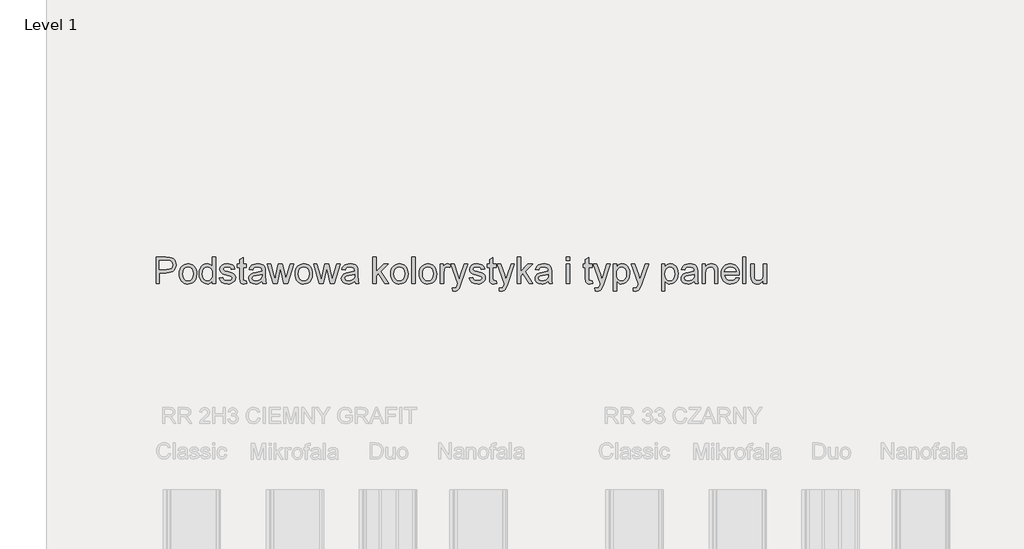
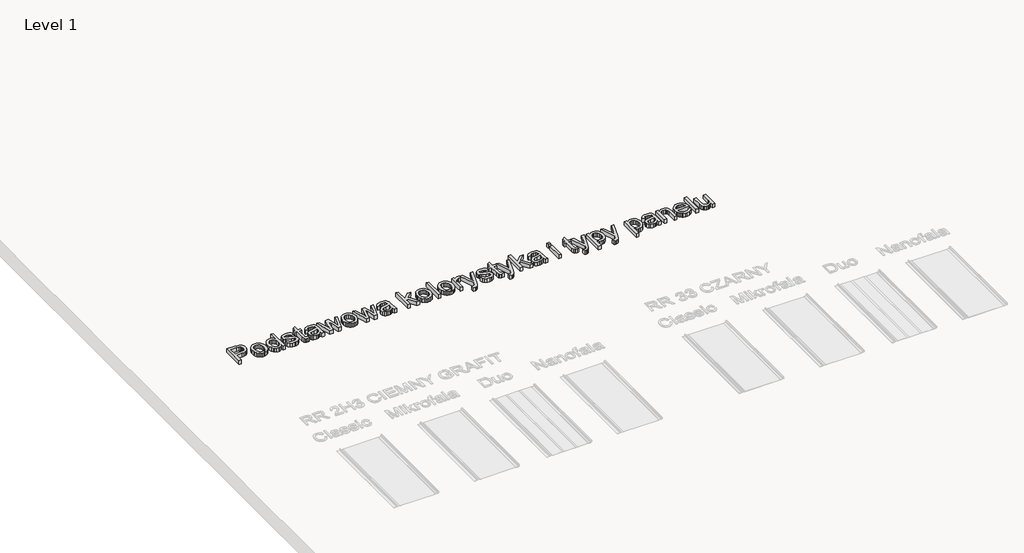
# One storey, part 18 of 22: 1 proxy.
"""IFC4 building model written with IfcOpenShell, lengths in millimetres."""

from ifc_helpers import new_model, si_unit, frame, origin, place, context, project, spatial, polyline, outline, extrude, element, save

model = new_model("IFC4")

# Units and contexts
model_context = context("Model", 3, world=origin())
ifc_project = project(units=[si_unit("LENGTHUNIT", "METRE", prefix="MILLI")], contexts=[model_context])

# Site, building, storey
site = spatial("IfcSite", under=ifc_project)
building = spatial("IfcBuilding", under=site)
storey = spatial("IfcBuildingStorey", under=building, Name="Level 1", Elevation=0.0)

# Proxy
placement = place(None, origin())
element("IfcBuildingElementProxy", 1, Name="250", ObjectType="250", at=placement, inside=storey, context=model_context, shape_type="SweptSolid", body=[
    extrude(outline(polyline([(-8797.1954693, 2793.1104745), (-8797.1954693, 3044.2512499), (-8704.1213245, 3044.2512499), (-8666.597361, 3041.8600169), (-8649.8663944, 3037.3917835), (-8636.0938123, 3030.1184499), (-8625.0037029, 3019.7104551), (-8616.320155, 3005.8382382), (-8610.7099546, 2989.4751536), (-8608.8398878, 2971.5945558), (-8613.890601, 2941.9953836), (-8629.0427407, 2917.3319616), (-8641.1770984, 2907.6214097), (-8657.3773185, 2900.6853013), (-8677.6434011, 2896.5236362), (-8701.9753462, 2895.1364145), (-8765.8028724, 2895.1364145), (-8765.8028724, 2793.1104745), (-8797.1954693, 2793.1104745)]), holes=[polyline([(-8765.8028724, 2926.5290114), (-8700.1359362, 2926.5290114), (-8672.2995319, 2929.4107537), (-8653.9054322, 2938.0559806), (-8643.6507216, 2951.9281975), (-8640.2324847, 2970.4909099), (-8642.2481715, 2984.593053), (-8648.2952318, 2996.4879042), (-8657.6225732, 3005.4396994), (-8669.4791033, 3010.7126747), (-8700.8717002, 3012.858653), (-8765.8028724, 3012.858653), (-8765.8028724, 2926.5290114)])]), frame((0.0, 0.0, 600.0), z_axis=(0.0, 0.0, 1.0), x_axis=(1.0, 0.0, 0.0)), (0.0, 0.0, 1.0), 50.0),
    extrude(outline(polyline([(-8577.4472909, 2885.326228), (-8575.7496687, 2909.2117329), (-8570.6568024, 2929.7939641), (-8562.1686917, 2947.0729216), (-8550.2853369, 2961.0486053), (-8525.116077, 2976.3616934), (-8494.9804103, 2981.466056), (-8477.6612157, 2979.9121378), (-8462.0013222, 2975.2503832), (-8448.0007299, 2967.4807921), (-8435.6594385, 2956.6033645), (-8425.5867529, 2942.9859826), (-8418.3919774, 2926.9965281), (-8414.0751121, 2908.6350013), (-8412.636157, 2887.9014019), (-8415.1806741, 2856.1869083), (-8422.8142255, 2832.0446523), (-8435.3145492, 2813.9647851), (-8452.459383, 2800.4374576), (-8472.8231843, 2791.9991643), (-8494.9804103, 2789.1863999), (-8512.5525237, 2790.73457), (-8528.3580371, 2795.3790802), (-8542.3969506, 2803.1199305), (-8554.669264, 2813.9571209), (-8564.6346507, 2827.7067105), (-8571.7527841, 2844.1847582), (-8576.0236642, 2863.391264), (-8577.4472909, 2885.326228)]), holes=[polyline([(-8546.0546939, 2885.3875416), (-8542.4218592, 2856.9763217), (-8531.5233551, 2836.7351478), (-8515.1219495, 2824.6180346), (-8494.9804103, 2820.5789968), (-8474.9308415, 2824.6410272), (-8458.5600927, 2836.8271183), (-8447.6615886, 2857.3365395), (-8444.0287539, 2886.3685603), (-8447.6845813, 2913.9520457), (-8458.6520632, 2933.9173082), (-8475.0458047, 2946.0344214), (-8494.9804103, 2950.0734591), (-8515.1219495, 2946.0497498), (-8531.5233551, 2933.9786218), (-8542.4218592, 2913.7834331), (-8546.0546939, 2885.3875416)])]), frame((0.0, 0.0, 600.0), z_axis=(0.0, 0.0, 1.0), x_axis=(1.0, 0.0, 0.0)), (0.0, 0.0, 1.0), 50.0),
    extrude(outline(polyline([(-8263.5213216, 2793.1104745), (-8263.5213216, 2822.7249751), (-8272.9138088, 2808.0518485), (-8284.2913259, 2797.5710437), (-8297.653873, 2791.2825609), (-8313.00145, 2789.1863999), (-8333.2962734, 2792.2214264), (-8351.8743141, 2801.3265057), (-8367.6012694, 2815.8655088), (-8379.3428365, 2835.2023061), (-8386.6544911, 2858.5551486), (-8389.0917093, 2885.142287), (-8386.8460963, 2911.3998644), (-8380.1092573, 2935.1129247), (-8368.8888564, 2954.9325671), (-8353.192558, 2969.5098912), (-8334.2083142, 2978.4770148), (-8313.1240773, 2981.466056), (-8297.765004, 2979.3277419), (-8284.184027, 2972.9127997), (-8272.6723863, 2963.0796205), (-8263.5213216, 2950.6865958), (-8263.5213216, 3044.2512499), (-8232.1287247, 3044.2512499), (-8232.1287247, 2793.1104745), (-8263.5213216, 2793.1104745)]), holes=[polyline([(-8357.6991124, 2885.2649143), (-8354.1582482, 2856.8690228), (-8343.5356556, 2836.6738341), (-8328.0999402, 2824.6027061), (-8310.1197077, 2820.5789968), (-8292.1471394, 2824.4187651), (-8277.1022986, 2835.9380701), (-8266.9165659, 2855.3515096), (-8263.5213216, 2882.8736813), (-8266.9778795, 2912.9633629), (-8277.3475533, 2933.8253377), (-8292.7756045, 2946.0114288), (-8311.4072947, 2950.0734591), (-8329.5714682, 2946.1723771), (-8344.4553606, 2934.4691312), (-8354.3881744, 2914.365913), (-8357.6991124, 2885.2649143)])]), frame((0.0, 0.0, 600.0), z_axis=(0.0, 0.0, 1.0), x_axis=(1.0, 0.0, 0.0)), (0.0, 0.0, 1.0), 50.0),
    extrude(outline(polyline([(-8196.8120532, 2848.0475191), (-8165.4194563, 2851.9715937), (-8160.4683777, 2838.5439009), (-8150.8881174, 2828.6724007), (-8136.6173617, 2822.6023478), (-8117.5947969, 2820.5789968), (-8098.8021583, 2822.4337352), (-8085.5890633, 2827.9979504), (-8077.7715709, 2836.0606975), (-8075.1657401, 2845.4110315), (-8077.7868993, 2853.4124649), (-8085.650377, 2859.5131746), (-8117.9626789, 2868.4649699), (-8165.2355153, 2883.8240432), (-8177.1993443, 2891.5419009), (-8185.8675638, 2901.7582904), (-8191.1328749, 2913.8217542), (-8192.8879786, 2927.0808344), (-8187.2471213, 2950.471998), (-8171.8573912, 2968.3449316), (-8151.8997929, 2977.6339519), (-8124.8911231, 2981.466056), (-8104.458344, 2979.9255502), (-8086.6927093, 2975.3040326), (-8072.4066251, 2968.0536916), (-8062.4124976, 2958.6267155), (-8055.7906217, 2946.3256613), (-8051.6212924, 2930.453086), (-8083.0138893, 2926.5290114), (-8086.976285, 2936.4081758), (-8094.81677, 2943.850122), (-8106.6119865, 2948.5176249), (-8122.4385765, 2950.0734591), (-8140.4647942, 2948.5866027), (-8152.4822728, 2944.1260335), (-8159.2421044, 2937.6880986), (-8161.4953816, 2930.2691451), (-8157.755248, 2921.1334088), (-8146.0443378, 2914.2049646), (-8119.0050112, 2907.521775), (-8072.9277913, 2892.7451815), (-8060.7570286, 2885.6787816), (-8051.5293219, 2876.0065508), (-8045.7121879, 2863.6978323), (-8043.7731432, 2848.7219695), (-8046.049413, 2833.2402688), (-8052.8782226, 2818.6782732), (-8063.9989887, 2806.1779496), (-8079.1511284, 2796.881265), (-8097.4532576, 2791.1101162), (-8118.0239925, 2789.1863999), (-8149.6771725, 2792.8958767), (-8172.7770962, 2804.024307), (-8188.1974831, 2822.4490636), (-8196.8120532, 2848.0475191)])), frame((0.0, 0.0, 600.0), z_axis=(0.0, 0.0, 1.0), x_axis=(1.0, 0.0, 0.0)), (0.0, 0.0, 1.0), 50.0),
    extrude(outline(polyline([(-7941.7472032, 2819.2914098), (-7937.8231286, 2792.1907695), (-7961.3062626, 2789.1863999), (-7976.374096, 2790.4893153), (-7987.6098253, 2794.3980615), (-8000.7309497, 2808.071009), (-8004.532397, 2843.6942489), (-8004.532397, 2946.1493845), (-8028.0768447, 2946.1493845), (-8028.0768447, 2977.5419814), (-8004.532397, 2977.5419814), (-8004.532397, 3022.3622712), (-7973.1398001, 3040.8176846), (-7973.1398001, 2977.5419814), (-7941.7472032, 2977.5419814), (-7941.7472032, 2946.1493845), (-7973.1398001, 2946.1493845), (-7973.1398001, 2844.6139538), (-7971.4843311, 2828.4271461), (-7966.1193854, 2822.6943183), (-7955.4201507, 2820.5789968), (-7941.7472032, 2819.2914098)])), frame((0.0, 0.0, 600.0), z_axis=(0.0, 0.0, 1.0), x_axis=(1.0, 0.0, 0.0)), (0.0, 0.0, 1.0), 50.0),
    extrude(outline(polyline([(-7792.6323678, 2816.6549222), (-7807.6312233, 2803.7943808), (-7823.0746029, 2795.3790802), (-7839.3150602, 2790.73457), (-7856.7051486, 2789.1863999), (-7882.9397334, 2792.9112051), (-7902.2918592, 2804.0856207), (-7914.2250314, 2821.0541777), (-7918.2027555, 2842.1614072), (-7916.7005707, 2855.1752328), (-7912.1940162, 2866.9934419), (-7896.4057473, 2885.0196596), (-7874.4247981, 2895.3203555), (-7847.2628441, 2900.0415078), (-7792.8163088, 2910.832713), (-7792.6323678, 2917.8224709), (-7794.7936745, 2931.8326435), (-7801.2775947, 2940.9990366), (-7815.7782767, 2947.8048535), (-7835.9811296, 2950.0734591), (-7854.6817977, 2948.5636101), (-7867.7416085, 2944.034063), (-7876.6474185, 2935.6570834), (-7882.886084, 2922.6049368), (-7914.2786809, 2926.5290114), (-7908.8294288, 2943.6968379), (-7900.6977039, 2957.1858444), (-7889.1247495, 2967.5018686), (-7873.3518089, 2975.1507485), (-7854.0609968, 2979.8872292), (-7831.9344276, 2981.466056), (-7810.712235, 2980.0711701), (-7793.889298, 2975.8865125), (-7781.2050333, 2969.5941975), (-7772.3988581, 2961.8763398), (-7762.7726125, 2940.5698409), (-7761.2397709, 2913.1013186), (-7761.2397709, 2874.0445135), (-7759.6456156, 2819.5060077), (-7753.3916217, 2793.1104745), (-7784.7842186, 2793.1104745), (-7792.6323678, 2816.6549222)]), holes=[polyline([(-7792.6323678, 2879.4401161), (-7843.2774558, 2869.8138705), (-7870.2861256, 2864.7248362), (-7882.518202, 2856.4474914), (-7886.8101586, 2844.3686992), (-7884.4725751, 2835.0336935), (-7877.4598245, 2827.3848137), (-7865.9251911, 2822.280451), (-7850.0219591, 2820.5789968), (-7833.1607009, 2822.4567278), (-7818.2614801, 2828.0899209), (-7806.182688, 2836.3902584), (-7797.7827157, 2846.2694228), (-7794.0579105, 2856.4474914), (-7792.8163088, 2870.5496345), (-7792.6323678, 2879.4401161)])]), frame((0.0, 0.0, 600.0), z_axis=(0.0, 0.0, 1.0), x_axis=(1.0, 0.0, 0.0)), (0.0, 0.0, 1.0), 50.0),
    extrude(outline(polyline([(-7687.2341762, 2793.1104745), (-7743.5814351, 2977.5419814), (-7711.0238785, 2977.5419814), (-7679.1407723, 2869.9364978), (-7669.6371541, 2831.4928293), (-7661.8503185, 2868.5262835), (-7636.5277745, 2977.5419814), (-7599.2490657, 2977.5419814), (-7573.9265217, 2868.8328519), (-7566.9980774, 2835.2942766), (-7557.0652636, 2870.6722618), (-7525.1821573, 2977.5419814), (-7492.4406597, 2977.5419814), (-7548.9718597, 2793.1104745), (-7586.8637052, 2793.1104745), (-7611.0212895, 2901.2677811), (-7618.0110474, 2934.9902973), (-7649.097076, 2793.1104745), (-7687.2341762, 2793.1104745)])), frame((0.0, 0.0, 600.0), z_axis=(0.0, 0.0, 1.0), x_axis=(1.0, 0.0, 0.0)), (0.0, 0.0, 1.0), 50.0),
    extrude(outline(polyline([(-7478.7063986, 2885.326228), (-7477.0087765, 2909.2117329), (-7471.9159101, 2929.7939641), (-7463.4277995, 2947.0729216), (-7451.5444446, 2961.0486053), (-7426.3751848, 2976.3616934), (-7396.239518, 2981.466056), (-7378.9203235, 2979.9121378), (-7363.26043, 2975.2503832), (-7349.2598376, 2967.4807921), (-7336.9185463, 2956.6033645), (-7326.8458606, 2942.9859826), (-7319.6510851, 2926.9965281), (-7315.3342198, 2908.6350013), (-7313.8952648, 2887.9014019), (-7316.4397819, 2856.1869083), (-7324.0733333, 2832.0446523), (-7336.5736569, 2813.9647851), (-7353.7184907, 2800.4374576), (-7374.082292, 2791.9991643), (-7396.239518, 2789.1863999), (-7413.8116314, 2790.73457), (-7429.6171449, 2795.3790802), (-7443.6560583, 2803.1199305), (-7455.9283717, 2813.9571209), (-7465.8937585, 2827.7067105), (-7473.0118919, 2844.1847582), (-7477.2827719, 2863.391264), (-7478.7063986, 2885.326228)]), holes=[polyline([(-7447.3138017, 2885.3875416), (-7443.680967, 2856.9763217), (-7432.7824629, 2836.7351478), (-7416.3810572, 2824.6180346), (-7396.239518, 2820.5789968), (-7376.1899493, 2824.6410272), (-7359.8192005, 2836.8271183), (-7348.9206964, 2857.3365395), (-7345.2878617, 2886.3685603), (-7348.943689, 2913.9520457), (-7359.911171, 2933.9173082), (-7376.3049124, 2946.0344214), (-7396.239518, 2950.0734591), (-7416.3810572, 2946.0497498), (-7432.7824629, 2933.9786218), (-7443.680967, 2913.7834331), (-7447.3138017, 2885.3875416)])]), frame((0.0, 0.0, 600.0), z_axis=(0.0, 0.0, 1.0), x_axis=(1.0, 0.0, 0.0)), (0.0, 0.0, 1.0), 50.0),
    extrude(outline(polyline([(-7247.7378193, 2793.1104745), (-7304.0850782, 2977.5419814), (-7271.5275216, 2977.5419814), (-7239.6444154, 2869.9364978), (-7230.1407972, 2831.4928293), (-7222.3539616, 2868.5262835), (-7197.0314176, 2977.5419814), (-7159.7527088, 2977.5419814), (-7134.4301648, 2868.8328519), (-7127.5017205, 2835.2942766), (-7117.5689067, 2870.6722618), (-7085.6858004, 2977.5419814), (-7052.9443028, 2977.5419814), (-7109.4755028, 2793.1104745), (-7147.3673483, 2793.1104745), (-7171.5249326, 2901.2677811), (-7178.5146905, 2934.9902973), (-7209.6007191, 2793.1104745), (-7247.7378193, 2793.1104745)])), frame((0.0, 0.0, 600.0), z_axis=(0.0, 0.0, 1.0), x_axis=(1.0, 0.0, 0.0)), (0.0, 0.0, 1.0), 50.0),
    extrude(outline(polyline([(-6913.639654, 2816.6549222), (-6928.6385095, 2803.7943808), (-6944.0818891, 2795.3790802), (-6960.3223463, 2790.73457), (-6977.7124348, 2789.1863999), (-7003.9470196, 2792.9112051), (-7023.2991454, 2804.0856207), (-7035.2323176, 2821.0541777), (-7039.2100417, 2842.1614072), (-7037.7078569, 2855.1752328), (-7033.2013024, 2866.9934419), (-7017.4130335, 2885.0196596), (-6995.4320843, 2895.3203555), (-6968.2701303, 2900.0415078), (-6913.823595, 2910.832713), (-6913.639654, 2917.8224709), (-6915.8009607, 2931.8326435), (-6922.2848809, 2940.9990366), (-6936.7855629, 2947.8048535), (-6956.9884158, 2950.0734591), (-6975.6890839, 2948.5636101), (-6988.7488947, 2944.034063), (-6997.6547046, 2935.6570834), (-7003.8933702, 2922.6049368), (-7035.2859671, 2926.5290114), (-7029.836715, 2943.6968379), (-7021.7049901, 2957.1858444), (-7010.1320357, 2967.5018686), (-6994.3590951, 2975.1507485), (-6975.068283, 2979.8872292), (-6952.9417138, 2981.466056), (-6931.7195212, 2980.0711701), (-6914.8965842, 2975.8865125), (-6902.2123195, 2969.5941975), (-6893.4061443, 2961.8763398), (-6883.7798987, 2940.5698409), (-6882.2470571, 2913.1013186), (-6882.2470571, 2874.0445135), (-6880.6529018, 2819.5060077), (-6874.3989078, 2793.1104745), (-6905.7915048, 2793.1104745), (-6913.639654, 2816.6549222)]), holes=[polyline([(-6913.639654, 2879.4401161), (-6964.284742, 2869.8138705), (-6991.2934118, 2864.7248362), (-7003.5254882, 2856.4474914), (-7007.8174448, 2844.3686992), (-7005.4798613, 2835.0336935), (-6998.4671107, 2827.3848137), (-6986.9324773, 2822.280451), (-6971.0292452, 2820.5789968), (-6954.1679871, 2822.4567278), (-6939.2687663, 2828.0899209), (-6927.1899742, 2836.3902584), (-6918.7900019, 2846.2694228), (-6915.0651967, 2856.4474914), (-6913.823595, 2870.5496345), (-6913.639654, 2879.4401161)])]), frame((0.0, 0.0, 600.0), z_axis=(0.0, 0.0, 1.0), x_axis=(1.0, 0.0, 0.0)), (0.0, 0.0, 1.0), 50.0),
    extrude(outline(polyline([(-6740.9803709, 2793.1104745), (-6740.9803709, 3044.2512499), (-6709.587774, 3044.2512499), (-6709.587774, 2909.2998713), (-6639.1996856, 2977.5419814), (-6595.7896102, 2977.5419814), (-6667.0974036, 2908.44148), (-6591.8655356, 2793.1104745), (-6628.5311077, 2793.1104745), (-6689.5995189, 2886.613815), (-6709.587774, 2867.1773829), (-6709.587774, 2793.1104745), (-6740.9803709, 2793.1104745)])), frame((0.0, 0.0, 600.0), z_axis=(0.0, 0.0, 1.0), x_axis=(1.0, 0.0, 0.0)), (0.0, 0.0, 1.0), 50.0),
    extrude(outline(polyline([(-6572.2451625, 2885.326228), (-6570.5475404, 2909.2117329), (-6565.454674, 2929.7939641), (-6556.9665634, 2947.0729216), (-6545.0832085, 2961.0486053), (-6519.9139487, 2976.3616934), (-6489.7782819, 2981.466056), (-6472.4590873, 2979.9121378), (-6456.7991939, 2975.2503832), (-6442.7986015, 2967.4807921), (-6430.4573102, 2956.6033645), (-6420.3846245, 2942.9859826), (-6413.189849, 2926.9965281), (-6408.8729837, 2908.6350013), (-6407.4340286, 2887.9014019), (-6409.9785458, 2856.1869083), (-6417.6120972, 2832.0446523), (-6430.1124208, 2813.9647851), (-6447.2572546, 2800.4374576), (-6467.6210559, 2791.9991643), (-6489.7782819, 2789.1863999), (-6507.3503953, 2790.73457), (-6523.1559087, 2795.3790802), (-6537.1948222, 2803.1199305), (-6549.4671356, 2813.9571209), (-6559.4325224, 2827.7067105), (-6566.5506558, 2844.1847582), (-6570.8215358, 2863.391264), (-6572.2451625, 2885.326228)]), holes=[polyline([(-6540.8525656, 2885.3875416), (-6537.2197309, 2856.9763217), (-6526.3212267, 2836.7351478), (-6509.9198211, 2824.6180346), (-6489.7782819, 2820.5789968), (-6469.7287132, 2824.6410272), (-6453.3579644, 2836.8271183), (-6442.4594603, 2857.3365395), (-6438.8266256, 2886.3685603), (-6442.4824529, 2913.9520457), (-6453.4499349, 2933.9173082), (-6469.8436763, 2946.0344214), (-6489.7782819, 2950.0734591), (-6509.9198211, 2946.0497498), (-6526.3212267, 2933.9786218), (-6537.2197309, 2913.7834331), (-6540.8525656, 2885.3875416)])]), frame((0.0, 0.0, 600.0), z_axis=(0.0, 0.0, 1.0), x_axis=(1.0, 0.0, 0.0)), (0.0, 0.0, 1.0), 50.0),
    extrude(outline(polyline([(-6372.1173571, 2793.1104745), (-6372.1173571, 3044.2512499), (-6340.7247602, 3044.2512499), (-6340.7247602, 2793.1104745), (-6372.1173571, 2793.1104745)])), frame((0.0, 0.0, 600.0), z_axis=(0.0, 0.0, 1.0), x_axis=(1.0, 0.0, 0.0)), (0.0, 0.0, 1.0), 50.0),
    extrude(outline(polyline([(-6301.484014, 2885.326228), (-6299.7863919, 2909.2117329), (-6294.6935255, 2929.7939641), (-6286.2054149, 2947.0729216), (-6274.32206, 2961.0486053), (-6249.1528002, 2976.3616934), (-6219.0171334, 2981.466056), (-6201.6979389, 2979.9121378), (-6186.0380454, 2975.2503832), (-6172.037453, 2967.4807921), (-6159.6961617, 2956.6033645), (-6149.623476, 2942.9859826), (-6142.4287006, 2926.9965281), (-6138.1118353, 2908.6350013), (-6136.6728802, 2887.9014019), (-6139.2173973, 2856.1869083), (-6146.8509487, 2832.0446523), (-6159.3512723, 2813.9647851), (-6176.4961062, 2800.4374576), (-6196.8599074, 2791.9991643), (-6219.0171334, 2789.1863999), (-6236.5892469, 2790.73457), (-6252.3947603, 2795.3790802), (-6266.4336737, 2803.1199305), (-6278.7059872, 2813.9571209), (-6288.6713739, 2827.7067105), (-6295.7895073, 2844.1847582), (-6300.0603873, 2863.391264), (-6301.484014, 2885.326228)]), holes=[polyline([(-6270.0914171, 2885.3875416), (-6266.4585824, 2856.9763217), (-6255.5600783, 2836.7351478), (-6239.1586727, 2824.6180346), (-6219.0171334, 2820.5789968), (-6198.9675647, 2824.6410272), (-6182.5968159, 2836.8271183), (-6171.6983118, 2857.3365395), (-6168.0654771, 2886.3685603), (-6171.7213044, 2913.9520457), (-6182.6887864, 2933.9173082), (-6199.0825278, 2946.0344214), (-6219.0171334, 2950.0734591), (-6239.1586727, 2946.0497498), (-6255.5600783, 2933.9786218), (-6266.4585824, 2913.7834331), (-6270.0914171, 2885.3875416)])]), frame((0.0, 0.0, 600.0), z_axis=(0.0, 0.0, 1.0), x_axis=(1.0, 0.0, 0.0)), (0.0, 0.0, 1.0), 50.0),
    extrude(outline(polyline([(-6101.3562087, 2793.1104745), (-6101.3562087, 2977.5419814), (-6073.8876863, 2977.5419814), (-6073.8876863, 2950.2574001), (-6063.7402746, 2966.0763259), (-6054.3899406, 2975.3960031), (-6034.7695675, 2981.466056), (-6019.1345827, 2979.0441662), (-6003.2543433, 2971.7784968), (-6013.7389801, 2943.6355242), (-6035.8118998, 2950.0734591), (-6045.1852265, 2948.5252891), (-6053.5622061, 2943.8807789), (-6064.8745775, 2926.7129524), (-6069.9636117, 2890.0473802), (-6069.9636117, 2793.1104745), (-6101.3562087, 2793.1104745)])), frame((0.0, 0.0, 600.0), z_axis=(0.0, 0.0, 1.0), x_axis=(1.0, 0.0, 0.0)), (0.0, 0.0, 1.0), 50.0),
    extrude(outline(polyline([(-5983.6339702, 2722.4771314), (-5987.5580448, 2752.7047687), (-5971.6164917, 2749.9456537), (-5956.7172709, 2753.4098759), (-5947.5815347, 2763.0667782), (-5938.9976214, 2786.1820303), (-5936.5450748, 2793.7849248), (-6003.2543433, 2977.5419814), (-5970.2062774, 2977.5419814), (-5934.7669785, 2875.0868458), (-5922.4429317, 2834.129317), (-5910.1188848, 2870.3656935), (-5873.759881, 2977.5419814), (-5840.9570697, 2977.5419814), (-5905.1524779, 2788.6958906), (-5921.829795, 2747.7383618), (-5930.367723, 2734.6632225), (-5940.0399538, 2725.6041284), (-5951.2603546, 2720.3158247), (-5964.4427928, 2718.5530568), (-5983.6339702, 2722.4771314)])), frame((0.0, 0.0, 600.0), z_axis=(0.0, 0.0, 1.0), x_axis=(1.0, 0.0, 0.0)), (0.0, 0.0, 1.0), 50.0),
    extrude(outline(polyline([(-5826.6709856, 2848.0475191), (-5795.2783887, 2851.9715937), (-5790.3273101, 2838.5439009), (-5780.7470499, 2828.6724007), (-5766.4762941, 2822.6023478), (-5747.4537293, 2820.5789968), (-5728.6610907, 2822.4337352), (-5715.4479957, 2827.9979504), (-5707.6305033, 2836.0606975), (-5705.0246725, 2845.4110315), (-5707.6458317, 2853.4124649), (-5715.5093094, 2859.5131746), (-5747.8216113, 2868.4649699), (-5795.0944477, 2883.8240432), (-5807.0582767, 2891.5419009), (-5815.7264962, 2901.7582904), (-5820.9918073, 2913.8217542), (-5822.746911, 2927.0808344), (-5817.1060537, 2950.471998), (-5801.7163236, 2968.3449316), (-5781.7587253, 2977.6339519), (-5754.7500555, 2981.466056), (-5734.3172764, 2979.9255502), (-5716.5516417, 2975.3040326), (-5702.2655575, 2968.0536916), (-5692.27143, 2958.6267155), (-5685.6495541, 2946.3256613), (-5681.4802248, 2930.453086), (-5712.8728217, 2926.5290114), (-5716.8352174, 2936.4081758), (-5724.6757024, 2943.850122), (-5736.4709189, 2948.5176249), (-5752.2975089, 2950.0734591), (-5770.3237267, 2948.5866027), (-5782.3412052, 2944.1260335), (-5789.1010368, 2937.6880986), (-5791.354314, 2930.2691451), (-5787.6141804, 2921.1334088), (-5775.9032703, 2914.2049646), (-5748.8639436, 2907.521775), (-5702.7867237, 2892.7451815), (-5690.615961, 2885.6787816), (-5681.3882543, 2876.0065508), (-5675.5711203, 2863.6978323), (-5673.6320756, 2848.7219695), (-5675.9083454, 2833.2402688), (-5682.737155, 2818.6782732), (-5693.8579211, 2806.1779496), (-5709.0100608, 2796.881265), (-5727.3121901, 2791.1101162), (-5747.882925, 2789.1863999), (-5779.536105, 2792.8958767), (-5802.6360286, 2804.024307), (-5818.0564155, 2822.4490636), (-5826.6709856, 2848.0475191)])), frame((0.0, 0.0, 600.0), z_axis=(0.0, 0.0, 1.0), x_axis=(1.0, 0.0, 0.0)), (0.0, 0.0, 1.0), 50.0),
    extrude(outline(polyline([(-5571.6061356, 2819.2914098), (-5567.682061, 2792.1907695), (-5591.165195, 2789.1863999), (-5606.2330284, 2790.4893153), (-5617.4687577, 2794.3980615), (-5630.5898822, 2808.071009), (-5634.3913294, 2843.6942489), (-5634.3913294, 2946.1493845), (-5657.9357771, 2946.1493845), (-5657.9357771, 2977.5419814), (-5634.3913294, 2977.5419814), (-5634.3913294, 3022.3622712), (-5602.9987325, 3040.8176846), (-5602.9987325, 2977.5419814), (-5571.6061356, 2977.5419814), (-5571.6061356, 2946.1493845), (-5602.9987325, 2946.1493845), (-5602.9987325, 2844.6139538), (-5601.3432635, 2828.4271461), (-5595.9783178, 2822.6943183), (-5585.2790831, 2820.5789968), (-5571.6061356, 2819.2914098)])), frame((0.0, 0.0, 600.0), z_axis=(0.0, 0.0, 1.0), x_axis=(1.0, 0.0, 0.0)), (0.0, 0.0, 1.0), 50.0),
    extrude(outline(polyline([(-5540.2135387, 2722.4771314), (-5544.1376133, 2752.7047687), (-5528.1960602, 2749.9456537), (-5513.2968394, 2753.4098759), (-5504.1611031, 2763.0667782), (-5495.5771899, 2786.1820303), (-5493.1246433, 2793.7849248), (-5559.8339118, 2977.5419814), (-5526.7858459, 2977.5419814), (-5491.346547, 2875.0868458), (-5479.0225001, 2834.129317), (-5466.6984533, 2870.3656935), (-5430.3394494, 2977.5419814), (-5397.5366382, 2977.5419814), (-5461.7320464, 2788.6958906), (-5478.4093635, 2747.7383618), (-5486.9472915, 2734.6632225), (-5496.6195222, 2725.6041284), (-5507.8399231, 2720.3158247), (-5521.0223613, 2718.5530568), (-5540.2135387, 2722.4771314)])), frame((0.0, 0.0, 600.0), z_axis=(0.0, 0.0, 1.0), x_axis=(1.0, 0.0, 0.0)), (0.0, 0.0, 1.0), 50.0),
    extrude(outline(polyline([(-5371.4783302, 2793.1104745), (-5371.4783302, 3044.2512499), (-5340.0857333, 3044.2512499), (-5340.0857333, 2909.2998713), (-5269.6976449, 2977.5419814), (-5226.2875695, 2977.5419814), (-5297.5953629, 2908.44148), (-5222.3634948, 2793.1104745), (-5259.029067, 2793.1104745), (-5320.0974782, 2886.613815), (-5340.0857333, 2867.1773829), (-5340.0857333, 2793.1104745), (-5371.4783302, 2793.1104745)])), frame((0.0, 0.0, 600.0), z_axis=(0.0, 0.0, 1.0), x_axis=(1.0, 0.0, 0.0)), (0.0, 0.0, 1.0), 50.0),
    extrude(outline(polyline([(-5077.1727341, 2816.6549222), (-5092.1715896, 2803.7943808), (-5107.6149692, 2795.3790802), (-5123.8554264, 2790.73457), (-5141.2455149, 2789.1863999), (-5167.4800997, 2792.9112051), (-5186.8322255, 2804.0856207), (-5198.7653977, 2821.0541777), (-5202.7431218, 2842.1614072), (-5201.240937, 2855.1752328), (-5196.7343825, 2866.9934419), (-5180.9461136, 2885.0196596), (-5158.9651643, 2895.3203555), (-5131.8032104, 2900.0415078), (-5077.3566751, 2910.832713), (-5077.1727341, 2917.8224709), (-5079.3340408, 2931.8326435), (-5085.817961, 2940.9990366), (-5100.3186429, 2947.8048535), (-5120.5214958, 2950.0734591), (-5139.2221639, 2948.5636101), (-5152.2819748, 2944.034063), (-5161.1877847, 2935.6570834), (-5167.4264502, 2922.6049368), (-5198.8190472, 2926.5290114), (-5193.3697951, 2943.6968379), (-5185.2380702, 2957.1858444), (-5173.6651157, 2967.5018686), (-5157.8921752, 2975.1507485), (-5138.6013631, 2979.8872292), (-5116.4747939, 2981.466056), (-5095.2526013, 2980.0711701), (-5078.4296642, 2975.8865125), (-5065.7453996, 2969.5941975), (-5056.9392243, 2961.8763398), (-5047.3129788, 2940.5698409), (-5045.7801372, 2913.1013186), (-5045.7801372, 2874.0445135), (-5044.1859818, 2819.5060077), (-5037.9319879, 2793.1104745), (-5069.3245848, 2793.1104745), (-5077.1727341, 2816.6549222)]), holes=[polyline([(-5077.1727341, 2879.4401161), (-5127.8178221, 2869.8138705), (-5154.8264919, 2864.7248362), (-5167.0585682, 2856.4474914), (-5171.3505248, 2844.3686992), (-5169.0129413, 2835.0336935), (-5162.0001908, 2827.3848137), (-5150.4655574, 2822.280451), (-5134.5623253, 2820.5789968), (-5117.7010672, 2822.4567278), (-5102.8018464, 2828.0899209), (-5090.7230542, 2836.3902584), (-5082.323082, 2846.2694228), (-5078.5982768, 2856.4474914), (-5077.3566751, 2870.5496345), (-5077.1727341, 2879.4401161)])]), frame((0.0, 0.0, 600.0), z_axis=(0.0, 0.0, 1.0), x_axis=(1.0, 0.0, 0.0)), (0.0, 0.0, 1.0), 50.0),
    extrude(outline(polyline([(-4904.513451, 3012.858653), (-4904.513451, 3044.2512499), (-4873.1208541, 3044.2512499), (-4873.1208541, 3012.858653), (-4904.513451, 3012.858653)])), frame((0.0, 0.0, 600.0), z_axis=(0.0, 0.0, 1.0), x_axis=(1.0, 0.0, 0.0)), (0.0, 0.0, 1.0), 50.0),
    extrude(outline(polyline([(-4904.513451, 2793.1104745), (-4904.513451, 2977.5419814), (-4873.1208541, 2977.5419814), (-4873.1208541, 2793.1104745), (-4904.513451, 2793.1104745)])), frame((0.0, 0.0, 600.0), z_axis=(0.0, 0.0, 1.0), x_axis=(1.0, 0.0, 0.0)), (0.0, 0.0, 1.0), 50.0),
    extrude(outline(polyline([(-4661.2208249, 2819.2914098), (-4657.2967502, 2792.1907695), (-4680.7798843, 2789.1863999), (-4695.8477177, 2790.4893153), (-4707.0834469, 2794.3980615), (-4720.2045714, 2808.071009), (-4724.0060187, 2843.6942489), (-4724.0060187, 2946.1493845), (-4747.5504664, 2946.1493845), (-4747.5504664, 2977.5419814), (-4724.0060187, 2977.5419814), (-4724.0060187, 3022.3622712), (-4692.6134218, 3040.8176846), (-4692.6134218, 2977.5419814), (-4661.2208249, 2977.5419814), (-4661.2208249, 2946.1493845), (-4692.6134218, 2946.1493845), (-4692.6134218, 2844.6139538), (-4690.9579528, 2828.4271461), (-4685.593007, 2822.6943183), (-4674.8937724, 2820.5789968), (-4661.2208249, 2819.2914098)])), frame((0.0, 0.0, 600.0), z_axis=(0.0, 0.0, 1.0), x_axis=(1.0, 0.0, 0.0)), (0.0, 0.0, 1.0), 50.0),
    extrude(outline(polyline([(-4629.8282279, 2722.4771314), (-4633.7523026, 2752.7047687), (-4617.8107494, 2749.9456537), (-4602.9115286, 2753.4098759), (-4593.7757924, 2763.0667782), (-4585.1918792, 2786.1820303), (-4582.7393326, 2793.7849248), (-4649.448601, 2977.5419814), (-4616.4005351, 2977.5419814), (-4580.9612363, 2875.0868458), (-4568.6371894, 2834.129317), (-4556.3131426, 2870.3656935), (-4519.9541387, 2977.5419814), (-4487.1513275, 2977.5419814), (-4551.3467356, 2788.6958906), (-4568.0240528, 2747.7383618), (-4576.5619807, 2734.6632225), (-4586.2342115, 2725.6041284), (-4597.4546124, 2720.3158247), (-4610.6370505, 2718.5530568), (-4629.8282279, 2722.4771314)])), frame((0.0, 0.0, 600.0), z_axis=(0.0, 0.0, 1.0), x_axis=(1.0, 0.0, 0.0)), (0.0, 0.0, 1.0), 50.0),
    extrude(outline(polyline([(-4461.0930195, 2722.4771314), (-4461.0930195, 2977.5419814), (-4429.7004226, 2977.5419814), (-4429.7004226, 2946.7625212), (-4419.4610404, 2961.9453177), (-4407.9953849, 2972.7901723), (-4394.6290057, 2979.2970851), (-4378.6874526, 2981.466056), (-4357.4575958, 2978.4310296), (-4338.8948834, 2969.3259502), (-4323.7810648, 2954.7026409), (-4312.8978891, 2935.1129247), (-4306.3219984, 2911.9823442), (-4304.1300349, 2886.7364423), (-4306.6055741, 2859.8887208), (-4314.0321919, 2835.8767565), (-4326.1722978, 2815.9191582), (-4342.7883012, 2801.2345352), (-4362.140427, 2792.1984337), (-4382.4888999, 2789.1863999), (-4396.920604, 2791.2020867), (-4409.804138, 2797.249147), (-4429.7004226, 2817.6359409), (-4429.7004226, 2722.4771314), (-4461.0930195, 2722.4771314)]), holes=[polyline([(-4429.7004226, 2883.8547), (-4426.3051783, 2855.7117274), (-4416.1194456, 2836.0300406), (-4401.0899332, 2824.4417578), (-4383.1633502, 2820.5789968), (-4364.9455272, 2824.5797135), (-4349.5328045, 2836.5818636), (-4339.025175, 2856.9839859), (-4335.5226318, 2886.1846193), (-4338.9408687, 2914.1743078), (-4349.1955793, 2934.131906), (-4364.202099, 2946.0880708), (-4381.8757632, 2950.0734591), (-4399.6184053, 2945.835152), (-4415.1997406, 2933.1202305), (-4426.0752521, 2912.3272336), (-4429.7004226, 2883.8547)])]), frame((0.0, 0.0, 600.0), z_axis=(0.0, 0.0, 1.0), x_axis=(1.0, 0.0, 0.0)), (0.0, 0.0, 1.0), 50.0),
    extrude(outline(polyline([(-4268.8133633, 2722.4771314), (-4272.737438, 2752.7047687), (-4256.7958848, 2749.9456537), (-4241.896664, 2753.4098759), (-4232.7609278, 2763.0667782), (-4224.1770146, 2786.1820303), (-4221.724468, 2793.7849248), (-4288.4337364, 2977.5419814), (-4255.3856705, 2977.5419814), (-4219.9463717, 2875.0868458), (-4207.6223248, 2834.129317), (-4195.298278, 2870.3656935), (-4158.9392741, 2977.5419814), (-4126.1364629, 2977.5419814), (-4190.331871, 2788.6958906), (-4207.0091882, 2747.7383618), (-4215.5471161, 2734.6632225), (-4225.2193469, 2725.6041284), (-4236.4397478, 2720.3158247), (-4249.6221859, 2718.5530568), (-4268.8133633, 2722.4771314)])), frame((0.0, 0.0, 600.0), z_axis=(0.0, 0.0, 1.0), x_axis=(1.0, 0.0, 0.0)), (0.0, 0.0, 1.0), 50.0),
    extrude(outline(polyline([(-4001.9762895, 2722.4771314), (-4001.9762895, 2977.5419814), (-3970.5836926, 2977.5419814), (-3970.5836926, 2946.7625212), (-3960.3443104, 2961.9453177), (-3948.8786549, 2972.7901723), (-3935.5122757, 2979.2970851), (-3919.5707226, 2981.466056), (-3898.3408658, 2978.4310296), (-3879.7781534, 2969.3259502), (-3864.6643348, 2954.7026409), (-3853.7811591, 2935.1129247), (-3847.2052685, 2911.9823442), (-3845.0133049, 2886.7364423), (-3847.4888442, 2859.8887208), (-3854.9154619, 2835.8767565), (-3867.0555678, 2815.9191582), (-3883.6715712, 2801.2345352), (-3903.023697, 2792.1984337), (-3923.3721699, 2789.1863999), (-3937.803874, 2791.2020867), (-3950.687408, 2797.249147), (-3970.5836926, 2817.6359409), (-3970.5836926, 2722.4771314), (-4001.9762895, 2722.4771314)]), holes=[polyline([(-3970.5836926, 2883.8547), (-3967.1884483, 2855.7117274), (-3957.0027156, 2836.0300406), (-3941.9732033, 2824.4417578), (-3924.0466202, 2820.5789968), (-3905.8287972, 2824.5797135), (-3890.4160745, 2836.5818636), (-3879.908445, 2856.9839859), (-3876.4059018, 2886.1846193), (-3879.8241387, 2914.1743078), (-3890.0788493, 2934.131906), (-3905.085369, 2946.0880708), (-3922.7590332, 2950.0734591), (-3940.5016753, 2945.835152), (-3956.0830106, 2933.1202305), (-3966.9585221, 2912.3272336), (-3970.5836926, 2883.8547)])]), frame((0.0, 0.0, 600.0), z_axis=(0.0, 0.0, 1.0), x_axis=(1.0, 0.0, 0.0)), (0.0, 0.0, 1.0), 50.0),
    extrude(outline(polyline([(-3691.9743949, 2816.6549222), (-3706.9732504, 2803.7943808), (-3722.41663, 2795.3790802), (-3738.6570873, 2790.73457), (-3756.0471757, 2789.1863999), (-3782.2817605, 2792.9112051), (-3801.6338863, 2804.0856207), (-3813.5670585, 2821.0541777), (-3817.5447826, 2842.1614072), (-3816.0425978, 2855.1752328), (-3811.5360433, 2866.9934419), (-3795.7477744, 2885.0196596), (-3773.7668252, 2895.3203555), (-3746.6048712, 2900.0415078), (-3692.1583359, 2910.832713), (-3691.9743949, 2917.8224709), (-3694.1357016, 2931.8326435), (-3700.6196218, 2940.9990366), (-3715.1203038, 2947.8048535), (-3735.3231567, 2950.0734591), (-3754.0238248, 2948.5636101), (-3767.0836356, 2944.034063), (-3775.9894456, 2935.6570834), (-3782.2281111, 2922.6049368), (-3813.620708, 2926.5290114), (-3808.1714559, 2943.6968379), (-3800.039731, 2957.1858444), (-3788.4667766, 2967.5018686), (-3772.693836, 2975.1507485), (-3753.4030239, 2979.8872292), (-3731.2764547, 2981.466056), (-3710.0542621, 2980.0711701), (-3693.2313251, 2975.8865125), (-3680.5470604, 2969.5941975), (-3671.7408852, 2961.8763398), (-3662.1146396, 2940.5698409), (-3660.581798, 2913.1013186), (-3660.581798, 2874.0445135), (-3658.9876427, 2819.5060077), (-3652.7336488, 2793.1104745), (-3684.1262457, 2793.1104745), (-3691.9743949, 2816.6549222)]), holes=[polyline([(-3691.9743949, 2879.4401161), (-3742.6194829, 2869.8138705), (-3769.6281527, 2864.7248362), (-3781.8602291, 2856.4474914), (-3786.1521857, 2844.3686992), (-3783.8146022, 2835.0336935), (-3776.8018516, 2827.3848137), (-3765.2672182, 2822.280451), (-3749.3639862, 2820.5789968), (-3732.502728, 2822.4567278), (-3717.6035072, 2828.0899209), (-3705.5247151, 2836.3902584), (-3697.1247428, 2846.2694228), (-3693.3999376, 2856.4474914), (-3692.1583359, 2870.5496345), (-3691.9743949, 2879.4401161)])]), frame((0.0, 0.0, 600.0), z_axis=(0.0, 0.0, 1.0), x_axis=(1.0, 0.0, 0.0)), (0.0, 0.0, 1.0), 50.0),
    extrude(outline(polyline([(-3617.4169772, 2793.1104745), (-3617.4169772, 2977.5419814), (-3586.0243803, 2977.5419814), (-3586.0243803, 2951.7902418), (-3575.118212, 2964.7734105), (-3562.0200801, 2974.0471025), (-3546.7299847, 2979.6113177), (-3529.2479257, 2981.466056), (-3513.7738893, 2979.9715354), (-3499.6027683, 2975.4879736), (-3487.7845592, 2968.5748578), (-3479.3692585, 2959.7916752), (-3469.9576108, 2936.70708), (-3468.3021418, 2906.3568154), (-3468.3021418, 2793.1104745), (-3499.6947388, 2793.1104745), (-3499.6947388, 2902.1261724), (-3503.312245, 2929.9012631), (-3508.316973, 2938.1709437), (-3516.0961444, 2944.585886), (-3537.6478979, 2950.0734591), (-3556.0343335, 2946.9924474), (-3571.7076393, 2937.7494123), (-3582.4451951, 2919.8918071), (-3586.0243803, 2890.9670852), (-3586.0243803, 2793.1104745), (-3617.4169772, 2793.1104745)])), frame((0.0, 0.0, 600.0), z_axis=(0.0, 0.0, 1.0), x_axis=(1.0, 0.0, 0.0)), (0.0, 0.0, 1.0), 50.0),
    extrude(outline(polyline([(-3296.0107408, 2848.0475191), (-3265.2312805, 2844.1234445), (-3276.3213898, 2820.9315504), (-3294.0180466, 2803.5951114), (-3317.9227121, 2792.7885778), (-3347.6368474, 2789.1863999), (-3367.1154326, 2790.7403181), (-3384.4710322, 2795.4020728), (-3399.7036461, 2803.1716639), (-3412.8132742, 2814.0490914), (-3423.3553927, 2827.7316192), (-3430.8854772, 2843.9165109), (-3435.403528, 2862.6037666), (-3436.9095449, 2883.7933863), (-3435.3881996, 2905.7015256), (-3430.8241636, 2925.0114982), (-3423.2174369, 2941.7233043), (-3412.5680196, 2955.8369437), (-3399.4928803, 2967.0496804), (-3384.6089879, 2975.058778), (-3367.9163424, 2979.8642365), (-3349.4149437, 2981.466056), (-3331.5094372, 2979.8680686), (-3315.3168813, 2975.0741064), (-3300.8372759, 2967.0841693), (-3288.070621, 2955.8982574), (-3277.6492139, 2941.8152748), (-3270.2053516, 2925.1341255), (-3265.7390343, 2905.8548097), (-3264.2502618, 2883.9773273), (-3264.4342028, 2875.5160414), (-3405.516948, 2875.5160414), (-3400.0830244, 2852.017579), (-3387.4600734, 2834.7424536), (-3369.2422504, 2824.119861), (-3347.0237108, 2820.5789968), (-3330.3157368, 2822.2191374), (-3316.2442505, 2827.1395591), (-3304.8092518, 2835.6468302), (-3296.0107408, 2848.0475191)]), holes=[polyline([(-3405.516948, 2906.9086384), (-3295.6428588, 2906.9086384), (-3299.8888301, 2923.493985), (-3308.2121603, 2935.3581793), (-3326.5142895, 2946.3946392), (-3349.5375711, 2950.0734591), (-3370.69845, 2947.1380674), (-3388.1958374, 2938.3318921), (-3400.3589359, 2924.6052952), (-3405.516948, 2906.9086384)])]), frame((0.0, 0.0, 600.0), z_axis=(0.0, 0.0, 1.0), x_axis=(1.0, 0.0, 0.0)), (0.0, 0.0, 1.0), 50.0),
    extrude(outline(polyline([(-3232.8576649, 2793.1104745), (-3232.8576649, 3044.2512499), (-3201.465068, 3044.2512499), (-3201.465068, 2793.1104745), (-3232.8576649, 2793.1104745)])), frame((0.0, 0.0, 600.0), z_axis=(0.0, 0.0, 1.0), x_axis=(1.0, 0.0, 0.0)), (0.0, 0.0, 1.0), 50.0),
    extrude(outline(polyline([(-3036.6539342, 2793.1104745), (-3036.6539342, 2824.8096398), (-3048.0122908, 2809.2244723), (-3061.2407142, 2798.0922099), (-3076.3392044, 2791.4128524), (-3093.3077614, 2789.1863999), (-3108.5978568, 2790.7498984), (-3122.8302915, 2795.4403938), (-3134.771128, 2802.4914654), (-3143.1864286, 2811.1366923), (-3152.5367626, 2834.2519443), (-3154.3761726, 2863.4372493), (-3154.3761726, 2977.5419814), (-3122.9835757, 2977.5419814), (-3122.9835757, 2878.2138427), (-3121.0828521, 2846.2081092), (-3116.5073197, 2835.5318671), (-3108.6668347, 2827.4154706), (-3098.0825632, 2822.2881153), (-3085.2756712, 2820.5789968), (-3071.7330152, 2822.3264363), (-3059.064079, 2827.5687547), (-3048.6177632, 2835.823107), (-3041.7429684, 2846.606648), (-3037.9261927, 2861.3755772), (-3036.6539342, 2881.5860944), (-3036.6539342, 2977.5419814), (-3005.2613372, 2977.5419814), (-3005.2613372, 2793.1104745), (-3036.6539342, 2793.1104745)])), frame((0.0, 0.0, 600.0), z_axis=(0.0, 0.0, 1.0), x_axis=(1.0, 0.0, 0.0)), (0.0, 0.0, 1.0), 50.0),
])

save(model, "model.ifc")
